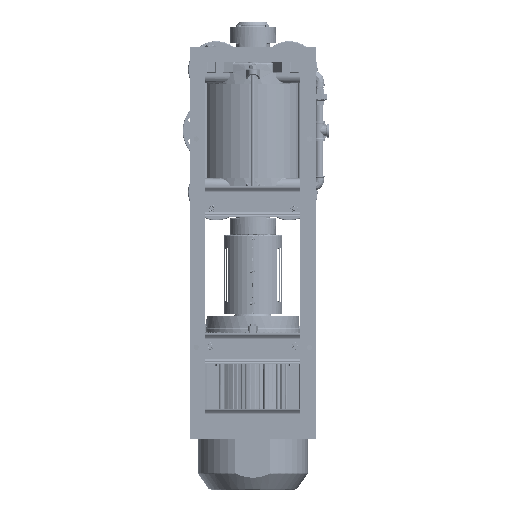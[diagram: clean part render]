
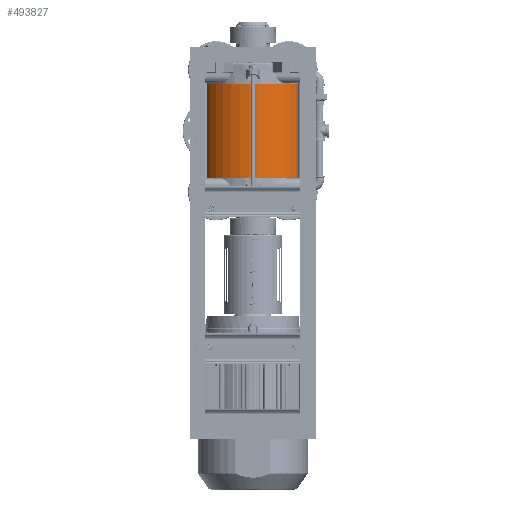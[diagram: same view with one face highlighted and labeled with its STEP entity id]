
A CAD part, front view. The second image highlights one B-rep face of the part: STEP entity #493827.
In plain terms, the highlighted cylindrical face has radius 171 mm (diameter 342 mm), a partial arc.
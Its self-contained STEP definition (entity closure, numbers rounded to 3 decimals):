
#1130 = AXIS2_PLACEMENT_3D ( 'NONE', #288910, #425633, #230056 ) ;
#5580 = CARTESIAN_POINT ( 'NONE',  ( -325.561, 321.75, -426. ) ) ;
#8147 = FACE_OUTER_BOUND ( 'NONE', #277021, .T. ) ;
#28580 = ORIENTED_EDGE ( 'NONE', *, *, #406165, .T. ) ;
#70381 = CARTESIAN_POINT ( 'NONE',  ( -325.561, 321.75, -426. ) ) ;
#123101 = EDGE_CURVE ( 'NONE', #335874, #376644, #411050, .T. ) ;
#131431 = CARTESIAN_POINT ( 'NONE',  ( 15.561, 297.25, -426. ) ) ;
#134562 = ORIENTED_EDGE ( 'NONE', *, *, #123101, .T. ) ;
#151054 = DIRECTION ( 'NONE',  ( 0.997, -0.072, 0. ) ) ;
#194598 = CARTESIAN_POINT ( 'NONE',  ( -155., 309.5, -426. ) ) ;
#197117 = ORIENTED_EDGE ( 'NONE', *, *, #229400, .F. ) ;
#206137 = CARTESIAN_POINT ( 'NONE',  ( 15.561, 297.25, -426. ) ) ;
#229400 = EDGE_CURVE ( 'NONE', #360770, #379794, #405840, .T. ) ;
#230056 = DIRECTION ( 'NONE',  ( -0.997, 0.072, 0. ) ) ;
#263879 = ORIENTED_EDGE ( 'NONE', *, *, #454959, .F. ) ;
#277021 = EDGE_LOOP ( 'NONE', ( #197117, #263879, #134562, #28580 ) ) ;
#286074 = DIRECTION ( 'NONE',  ( 0., 0., -1. ) ) ;
#288910 = CARTESIAN_POINT ( 'NONE',  ( -155., 309.5, -120.5 ) ) ;
#317458 = CIRCLE ( 'NONE', #356839, 171. ) ;
#335874 = VERTEX_POINT ( 'NONE', #206137 ) ;
#346661 = DIRECTION ( 'NONE',  ( 0., 0., 1. ) ) ;
#356839 = AXIS2_PLACEMENT_3D ( 'NONE', #475553, #286074, #578029 ) ;
#360770 = VERTEX_POINT ( 'NONE', #5580 ) ;
#376644 = VERTEX_POINT ( 'NONE', #569885 ) ;
#379794 = VERTEX_POINT ( 'NONE', #472416 ) ;
#402733 = DIRECTION ( 'NONE',  ( 0., 0., 1. ) ) ;
#405840 = LINE ( 'NONE', #70381, #538648 ) ;
#406165 = EDGE_CURVE ( 'NONE', #376644, #379794, #467705, .T. ) ;
#411050 = LINE ( 'NONE', #131431, #516101 ) ;
#425633 = DIRECTION ( 'NONE',  ( 0., 0., -1. ) ) ;
#454959 = EDGE_CURVE ( 'NONE', #335874, #360770, #317458, .T. ) ;
#467705 = CIRCLE ( 'NONE', #1130, 171. ) ;
#472416 = CARTESIAN_POINT ( 'NONE',  ( -325.561, 321.75, -120.5 ) ) ;
#474313 = CYLINDRICAL_SURFACE ( 'NONE', #568053, 171. ) ;
#475553 = CARTESIAN_POINT ( 'NONE',  ( -155., 309.5, -426. ) ) ;
#493827 = ADVANCED_FACE ( 'NONE', ( #8147 ), #474313, .T. ) ;
#516101 = VECTOR ( 'NONE', #600756, 1000. ) ;
#538648 = VECTOR ( 'NONE', #402733, 1000. ) ;
#568053 = AXIS2_PLACEMENT_3D ( 'NONE', #194598, #346661, #151054 ) ;
#569885 = CARTESIAN_POINT ( 'NONE',  ( 15.561, 297.25, -120.5 ) ) ;
#578029 = DIRECTION ( 'NONE',  ( -0.997, 0.072, 0. ) ) ;
#600756 = DIRECTION ( 'NONE',  ( 0., 0., 1. ) ) ;
